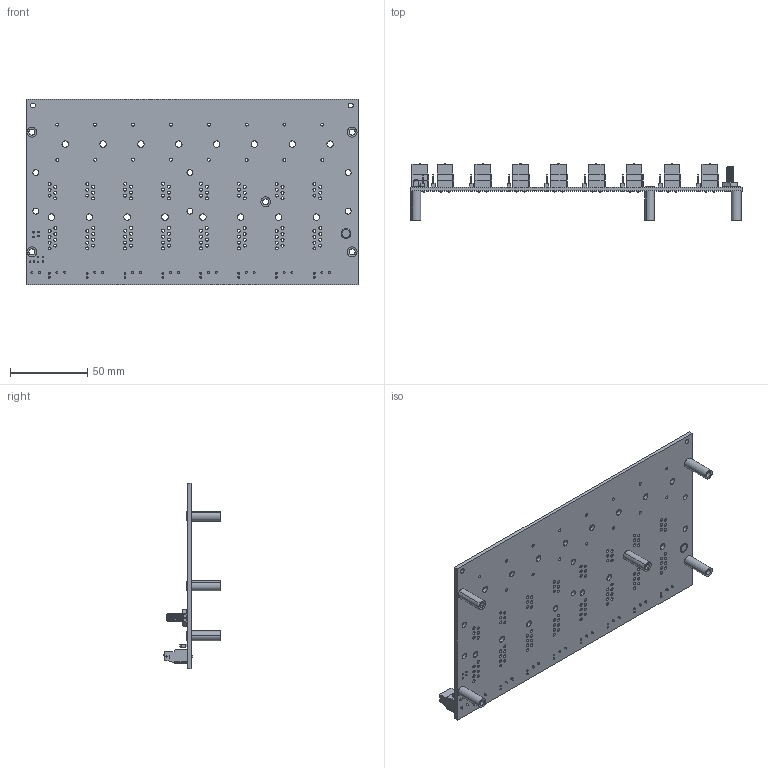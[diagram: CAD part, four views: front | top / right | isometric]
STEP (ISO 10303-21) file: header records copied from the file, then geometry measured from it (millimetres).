
FILE_DESCRIPTION (( 'STEP AP214' ), '1' );
FILE_NAME ('SCMVAS-PB8.STEP', '2017-03-29T19:24:21', ( '' ), ( '' ), 'SwSTEP 2.0', 'SolidWorks 2017', '' );
FILE_SCHEMA (( 'AUTOMOTIVE_DESIGN' ));
Length unit declared in the file: millimetre
Products named in the file (1): SCMVAS-PB8
Bounding box: 215.01 x 36.81 x 120.14 mm (x, y, z)
Volume: 72313.7 mm3; surface area: 69503.2 mm2
Topology: 62 solids, 80 shells, 2994 faces, 7671 edges, 4976 vertices
Faces by surface type: plane 2009, cylinder 649, bspline 273, cone 41, torus 22
Entity records: 138310 total; most frequent: CARTESIAN_POINT 32190, ORIENTED_EDGE 15338, DIRECTION 13797, EDGE_CURVE 7669, LINE 5647, VECTOR 5647, VERTEX_POINT 4976, AXIS2_PLACEMENT_3D 4075
